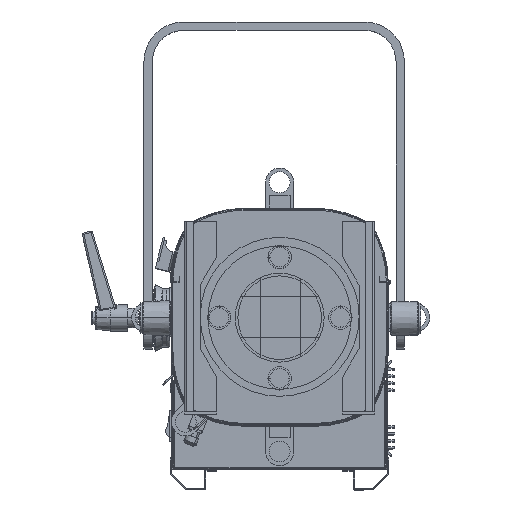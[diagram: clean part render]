
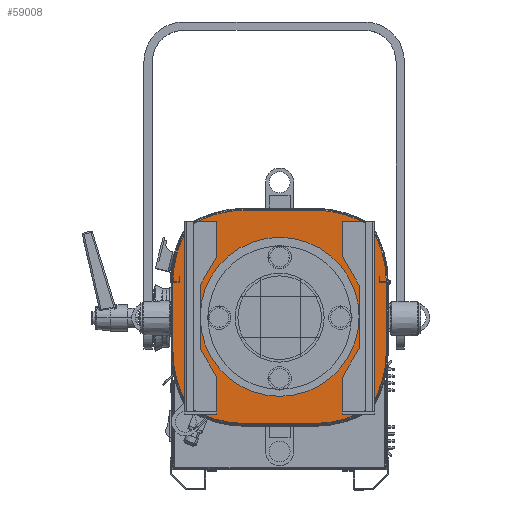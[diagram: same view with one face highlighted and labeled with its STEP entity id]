
A CAD part, top view. The second image highlights one B-rep face of the part: STEP entity #59008.
In plain terms, the highlighted planar face has unit normal (0, 0, 1) as drawn and (0, 0, -1) by its records, which use the part's own axes.
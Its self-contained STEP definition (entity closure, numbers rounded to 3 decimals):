
#517 = DIRECTION ( 'NONE',  ( 0., 0., -1. ) ) ;
#772 = VERTEX_POINT ( 'NONE', #38954 ) ;
#1062 = ORIENTED_EDGE ( 'NONE', *, *, #78781, .F. ) ;
#1675 = CIRCLE ( 'NONE', #102118, 76. ) ;
#2600 = AXIS2_PLACEMENT_3D ( 'NONE', #59253, #67983, #83660 ) ;
#2917 = CARTESIAN_POINT ( 'NONE',  ( -76., 0., -729.7 ) ) ;
#3377 = VERTEX_POINT ( 'NONE', #67170 ) ;
#4098 = EDGE_CURVE ( 'NONE', #96526, #3377, #85513, .T. ) ;
#5922 = DIRECTION ( 'NONE',  ( 0., 0., -1. ) ) ;
#6037 = EDGE_CURVE ( 'NONE', #99370, #87424, #85580, .T. ) ;
#6189 = ORIENTED_EDGE ( 'NONE', *, *, #11257, .T. ) ;
#6341 = CIRCLE ( 'NONE', #81196, 102. ) ;
#6716 = AXIS2_PLACEMENT_3D ( 'NONE', #53505, #5922, #100222 ) ;
#7489 = CARTESIAN_POINT ( 'NONE',  ( -33., 0., -729.7 ) ) ;
#7652 = DIRECTION ( 'NONE',  ( 0., 0., -1. ) ) ;
#8369 = AXIS2_PLACEMENT_3D ( 'NONE', #102625, #7652, #54568 ) ;
#8957 = DIRECTION ( 'NONE',  ( 1., 0., 0. ) ) ;
#9427 = VERTEX_POINT ( 'NONE', #87505 ) ;
#11257 = EDGE_CURVE ( 'NONE', #87424, #9427, #31755, .T. ) ;
#11465 = VERTEX_POINT ( 'NONE', #2917 ) ;
#12079 = AXIS2_PLACEMENT_3D ( 'NONE', #7489, #517, #78407 ) ;
#12734 = CARTESIAN_POINT ( 'NONE',  ( -102., 33., -729.7 ) ) ;
#12775 = VERTEX_POINT ( 'NONE', #69951 ) ;
#12990 = AXIS2_PLACEMENT_3D ( 'NONE', #20797, #20112, #83416 ) ;
#14582 = CARTESIAN_POINT ( 'NONE',  ( -86.712, 86.712, -729.7 ) ) ;
#16394 = VECTOR ( 'NONE', #39749, 1000. ) ;
#16723 = ORIENTED_EDGE ( 'NONE', *, *, #79140, .T. ) ;
#17018 = CARTESIAN_POINT ( 'NONE',  ( 0., 0., -729.7 ) ) ;
#18214 = VERTEX_POINT ( 'NONE', #14582 ) ;
#18428 = ORIENTED_EDGE ( 'NONE', *, *, #99491, .T. ) ;
#18844 = AXIS2_PLACEMENT_3D ( 'NONE', #97299, #25905, #98652 ) ;
#20112 = DIRECTION ( 'NONE',  ( 0., 0., -1. ) ) ;
#20797 = CARTESIAN_POINT ( 'NONE',  ( 0., 33., -729.7 ) ) ;
#23267 = CIRCLE ( 'NONE', #18844, 76. ) ;
#25905 = DIRECTION ( 'NONE',  ( 0., 0., -1. ) ) ;
#28024 = EDGE_CURVE ( 'NONE', #12775, #92084, #42575, .T. ) ;
#31012 = LINE ( 'NONE', #40624, #72027 ) ;
#31755 = CIRCLE ( 'NONE', #12079, 102. ) ;
#32729 = AXIS2_PLACEMENT_3D ( 'NONE', #76313, #84680, #84332 ) ;
#32997 = CARTESIAN_POINT ( 'NONE',  ( -33., -102., -729.7 ) ) ;
#34145 = CARTESIAN_POINT ( 'NONE',  ( -33., -102., -729.7 ) ) ;
#36180 = DIRECTION ( 'NONE',  ( -1., 0., 0. ) ) ;
#37354 = VERTEX_POINT ( 'NONE', #50727 ) ;
#37387 = PLANE ( 'NONE',  #32729 ) ;
#37498 = DIRECTION ( 'NONE',  ( 0., 0., -1. ) ) ;
#38929 = CIRCLE ( 'NONE', #8369, 102. ) ;
#38954 = CARTESIAN_POINT ( 'NONE',  ( 86.712, -86.712, -729.7 ) ) ;
#39749 = DIRECTION ( 'NONE',  ( 0., 1., 0. ) ) ;
#40386 = DIRECTION ( 'NONE',  ( 0., 0., -1. ) ) ;
#40574 = ORIENTED_EDGE ( 'NONE', *, *, #74857, .T. ) ;
#40624 = CARTESIAN_POINT ( 'NONE',  ( -33., 102., -729.7 ) ) ;
#41127 = CARTESIAN_POINT ( 'NONE',  ( -102., 0., -729.7 ) ) ;
#42283 = EDGE_LOOP ( 'NONE', ( #51827, #1062 ) ) ;
#42575 = LINE ( 'NONE', #41127, #16394 ) ;
#43257 = VECTOR ( 'NONE', #89118, 1000. ) ;
#47108 = CIRCLE ( 'NONE', #2600, 102. ) ;
#48090 = EDGE_CURVE ( 'NONE', #82374, #772, #97471, .T. ) ;
#48526 = CARTESIAN_POINT ( 'NONE',  ( 102., 0., -729.7 ) ) ;
#50727 = CARTESIAN_POINT ( 'NONE',  ( 76., 0., -729.7 ) ) ;
#51627 = CARTESIAN_POINT ( 'NONE',  ( 33., 102., -729.7 ) ) ;
#51827 = ORIENTED_EDGE ( 'NONE', *, *, #97027, .F. ) ;
#53505 = CARTESIAN_POINT ( 'NONE',  ( 0., -33., -729.7 ) ) ;
#53837 = ORIENTED_EDGE ( 'NONE', *, *, #6037, .T. ) ;
#54568 = DIRECTION ( 'NONE',  ( -1., 0., 0. ) ) ;
#55896 = CARTESIAN_POINT ( 'NONE',  ( -33., 102., -729.7 ) ) ;
#56109 = FACE_OUTER_BOUND ( 'NONE', #72219, .T. ) ;
#57709 = DIRECTION ( 'NONE',  ( 0., 0., -1. ) ) ;
#58163 = CARTESIAN_POINT ( 'NONE',  ( 86.712, 86.712, -729.7 ) ) ;
#59008 = ADVANCED_FACE ( 'NONE', ( #63573, #56109 ), #37387, .T. ) ;
#59253 = CARTESIAN_POINT ( 'NONE',  ( 0., 33., -729.7 ) ) ;
#63118 = ORIENTED_EDGE ( 'NONE', *, *, #64998, .T. ) ;
#63573 = FACE_BOUND ( 'NONE', #42283, .T. ) ;
#64998 = EDGE_CURVE ( 'NONE', #76852, #96526, #6341, .T. ) ;
#65323 = VERTEX_POINT ( 'NONE', #55896 ) ;
#66864 = EDGE_CURVE ( 'NONE', #65323, #76852, #31012, .T. ) ;
#67170 = CARTESIAN_POINT ( 'NONE',  ( 102., 33., -729.7 ) ) ;
#67983 = DIRECTION ( 'NONE',  ( 0., 0., -1. ) ) ;
#69219 = ORIENTED_EDGE ( 'NONE', *, *, #66864, .T. ) ;
#69951 = CARTESIAN_POINT ( 'NONE',  ( -102., -33., -729.7 ) ) ;
#70881 = LINE ( 'NONE', #48526, #78296 ) ;
#72027 = VECTOR ( 'NONE', #8957, 1000. ) ;
#72219 = EDGE_LOOP ( 'NONE', ( #18428, #53837, #6189, #83120, #99134, #40574, #16723, #69219, #63118, #81982, #100434, #85593 ) ) ;
#74857 = EDGE_CURVE ( 'NONE', #92084, #18214, #47108, .T. ) ;
#76313 = CARTESIAN_POINT ( 'NONE',  ( -33., 0., -729.7 ) ) ;
#76852 = VERTEX_POINT ( 'NONE', #51627 ) ;
#78296 = VECTOR ( 'NONE', #103196, 1000. ) ;
#78407 = DIRECTION ( 'NONE',  ( -1., 0., 0. ) ) ;
#78781 = EDGE_CURVE ( 'NONE', #37354, #11465, #1675, .T. ) ;
#78909 = DIRECTION ( 'NONE',  ( -1., 0., 0. ) ) ;
#79140 = EDGE_CURVE ( 'NONE', #18214, #65323, #84986, .T. ) ;
#81196 = AXIS2_PLACEMENT_3D ( 'NONE', #90753, #57709, #36180 ) ;
#81862 = AXIS2_PLACEMENT_3D ( 'NONE', #98828, #91092, #83806 ) ;
#81982 = ORIENTED_EDGE ( 'NONE', *, *, #4098, .T. ) ;
#82374 = VERTEX_POINT ( 'NONE', #86676 ) ;
#83120 = ORIENTED_EDGE ( 'NONE', *, *, #94493, .T. ) ;
#83416 = DIRECTION ( 'NONE',  ( -1., 0., 0. ) ) ;
#83660 = DIRECTION ( 'NONE',  ( -1., 0., 0. ) ) ;
#83806 = DIRECTION ( 'NONE',  ( -1., 0., 0. ) ) ;
#84332 = DIRECTION ( 'NONE',  ( -1., 0., 0. ) ) ;
#84680 = DIRECTION ( 'NONE',  ( 0., 0., -1. ) ) ;
#84986 = CIRCLE ( 'NONE', #94814, 102. ) ;
#85147 = CARTESIAN_POINT ( 'NONE',  ( -33., 0., -729.7 ) ) ;
#85513 = CIRCLE ( 'NONE', #12990, 102. ) ;
#85580 = LINE ( 'NONE', #34145, #43257 ) ;
#85593 = ORIENTED_EDGE ( 'NONE', *, *, #48090, .T. ) ;
#86676 = CARTESIAN_POINT ( 'NONE',  ( 102., -33., -729.7 ) ) ;
#87424 = VERTEX_POINT ( 'NONE', #32997 ) ;
#87505 = CARTESIAN_POINT ( 'NONE',  ( -86.712, -86.712, -729.7 ) ) ;
#89118 = DIRECTION ( 'NONE',  ( -1., 0., 0. ) ) ;
#90340 = EDGE_CURVE ( 'NONE', #3377, #82374, #70881, .T. ) ;
#90753 = CARTESIAN_POINT ( 'NONE',  ( 33., 0., -729.7 ) ) ;
#91092 = DIRECTION ( 'NONE',  ( 0., 0., -1. ) ) ;
#92084 = VERTEX_POINT ( 'NONE', #12734 ) ;
#94493 = EDGE_CURVE ( 'NONE', #9427, #12775, #95861, .T. ) ;
#94814 = AXIS2_PLACEMENT_3D ( 'NONE', #85147, #37498, #78909 ) ;
#95861 = CIRCLE ( 'NONE', #6716, 102. ) ;
#96407 = DIRECTION ( 'NONE',  ( -1., 0., 0. ) ) ;
#96526 = VERTEX_POINT ( 'NONE', #58163 ) ;
#97027 = EDGE_CURVE ( 'NONE', #11465, #37354, #23267, .T. ) ;
#97299 = CARTESIAN_POINT ( 'NONE',  ( 0., 0., -729.7 ) ) ;
#97471 = CIRCLE ( 'NONE', #81862, 102. ) ;
#98652 = DIRECTION ( 'NONE',  ( -1., 0., 0. ) ) ;
#98828 = CARTESIAN_POINT ( 'NONE',  ( 0., -33., -729.7 ) ) ;
#99134 = ORIENTED_EDGE ( 'NONE', *, *, #28024, .T. ) ;
#99370 = VERTEX_POINT ( 'NONE', #99468 ) ;
#99468 = CARTESIAN_POINT ( 'NONE',  ( 33., -102., -729.7 ) ) ;
#99491 = EDGE_CURVE ( 'NONE', #772, #99370, #38929, .T. ) ;
#100222 = DIRECTION ( 'NONE',  ( -1., 0., 0. ) ) ;
#100434 = ORIENTED_EDGE ( 'NONE', *, *, #90340, .T. ) ;
#102118 = AXIS2_PLACEMENT_3D ( 'NONE', #17018, #40386, #96407 ) ;
#102625 = CARTESIAN_POINT ( 'NONE',  ( 33., 0., -729.7 ) ) ;
#103196 = DIRECTION ( 'NONE',  ( 0., -1., 0. ) ) ;
